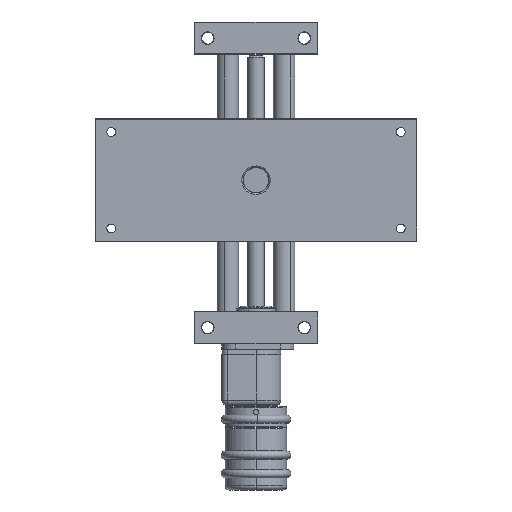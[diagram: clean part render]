
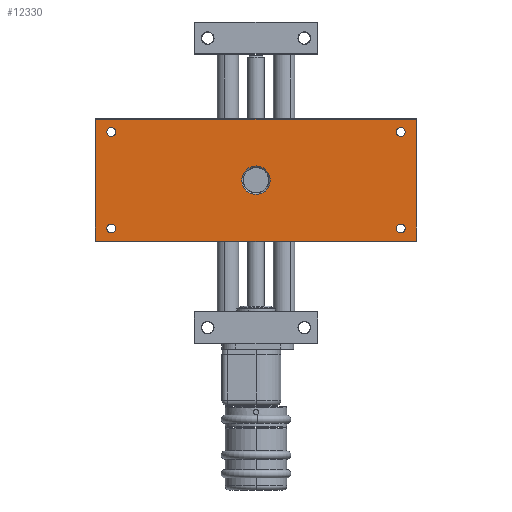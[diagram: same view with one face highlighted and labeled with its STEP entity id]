
A CAD part, front view. The second image highlights one B-rep face of the part: STEP entity #12330.
In plain terms, the highlighted planar face has unit normal (0, -1, 0).
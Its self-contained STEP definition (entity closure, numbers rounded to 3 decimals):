
#97 = VERTEX_POINT ( 'NONE', #8953 ) ;
#182 = FACE_BOUND ( 'NONE', #8036, .T. ) ;
#212 = CIRCLE ( 'NONE', #5906, 1.65 ) ;
#395 = CARTESIAN_POINT ( 'NONE',  ( 54., -7., -19.65 ) ) ;
#468 = VERTEX_POINT ( 'NONE', #3600 ) ;
#666 = CIRCLE ( 'NONE', #9954, 1.65 ) ;
#668 = CARTESIAN_POINT ( 'NONE',  ( -54., -7., 19.65 ) ) ;
#783 = AXIS2_PLACEMENT_3D ( 'NONE', #5947, #5916, #5890 ) ;
#1185 = EDGE_CURVE ( 'NONE', #1706, #3556, #8338, .T. ) ;
#1206 = DIRECTION ( 'NONE',  ( 1., 0., 0. ) ) ;
#1440 = DIRECTION ( 'NONE',  ( 0., -1., 0. ) ) ;
#1706 = VERTEX_POINT ( 'NONE', #11156 ) ;
#2142 = AXIS2_PLACEMENT_3D ( 'NONE', #2323, #2298, #2260 ) ;
#2260 = DIRECTION ( 'NONE',  ( 0., 0., 1. ) ) ;
#2298 = DIRECTION ( 'NONE',  ( 0., 1., 0. ) ) ;
#2323 = CARTESIAN_POINT ( 'NONE',  ( 0., -7., 0. ) ) ;
#2417 = DIRECTION ( 'NONE',  ( -1., 0., 0. ) ) ;
#2648 = VERTEX_POINT ( 'NONE', #395 ) ;
#2690 = LINE ( 'NONE', #5216, #6253 ) ;
#2712 = EDGE_LOOP ( 'NONE', ( #4130, #3086 ) ) ;
#2776 = ORIENTED_EDGE ( 'NONE', *, *, #13165, .T. ) ;
#2799 = DIRECTION ( 'NONE',  ( 0., 0., 1. ) ) ;
#2830 = DIRECTION ( 'NONE',  ( 0., -1., 0. ) ) ;
#2986 = CARTESIAN_POINT ( 'NONE',  ( -60., -7., 23. ) ) ;
#3086 = ORIENTED_EDGE ( 'NONE', *, *, #6129, .F. ) ;
#3158 = LINE ( 'NONE', #3850, #9868 ) ;
#3195 = ORIENTED_EDGE ( 'NONE', *, *, #15791, .F. ) ;
#3263 = PLANE ( 'NONE',  #6344 ) ;
#3556 = VERTEX_POINT ( 'NONE', #8647 ) ;
#3600 = CARTESIAN_POINT ( 'NONE',  ( -59.7, -7., -22.7 ) ) ;
#3743 = CARTESIAN_POINT ( 'NONE',  ( -60., -7., 22.7 ) ) ;
#3780 = CARTESIAN_POINT ( 'NONE',  ( -54., -7., -18. ) ) ;
#3809 = DIRECTION ( 'NONE',  ( 0., 0., 1. ) ) ;
#3827 = DIRECTION ( 'NONE',  ( 0., -1., 0. ) ) ;
#3831 = CARTESIAN_POINT ( 'NONE',  ( 54., -7., -18. ) ) ;
#3850 = CARTESIAN_POINT ( 'NONE',  ( -59.7, -7., -23. ) ) ;
#3867 = CIRCLE ( 'NONE', #16122, 1.65 ) ;
#3906 = CARTESIAN_POINT ( 'NONE',  ( -54., -7., -18. ) ) ;
#3924 = CARTESIAN_POINT ( 'NONE',  ( 54., -7., 19.65 ) ) ;
#4058 = VERTEX_POINT ( 'NONE', #10426 ) ;
#4130 = ORIENTED_EDGE ( 'NONE', *, *, #5795, .F. ) ;
#4307 = VECTOR ( 'NONE', #2417, 1000. ) ;
#4384 = VERTEX_POINT ( 'NONE', #668 ) ;
#4478 = ORIENTED_EDGE ( 'NONE', *, *, #9339, .F. ) ;
#4515 = DIRECTION ( 'NONE',  ( 0., 0., 1. ) ) ;
#4542 = DIRECTION ( 'NONE',  ( 0., -1., 0. ) ) ;
#4562 = CARTESIAN_POINT ( 'NONE',  ( 54., -7., -18. ) ) ;
#4706 = CARTESIAN_POINT ( 'NONE',  ( 0., -7., 5.3 ) ) ;
#4886 = ORIENTED_EDGE ( 'NONE', *, *, #6838, .F. ) ;
#5097 = DIRECTION ( 'NONE',  ( 0., 0., 1. ) ) ;
#5181 = DIRECTION ( 'NONE',  ( 0., 0., -1. ) ) ;
#5216 = CARTESIAN_POINT ( 'NONE',  ( 60., -7., -22.7 ) ) ;
#5239 = EDGE_LOOP ( 'NONE', ( #4886, #4478 ) ) ;
#5241 = DIRECTION ( 'NONE',  ( 0., 0., 1. ) ) ;
#5359 = CIRCLE ( 'NONE', #16535, 1.65 ) ;
#5435 = ORIENTED_EDGE ( 'NONE', *, *, #16121, .T. ) ;
#5442 = VERTEX_POINT ( 'NONE', #7554 ) ;
#5661 = AXIS2_PLACEMENT_3D ( 'NONE', #5977, #5920, #5858 ) ;
#5795 = EDGE_CURVE ( 'NONE', #4384, #5442, #666, .T. ) ;
#5858 = DIRECTION ( 'NONE',  ( 0., 0., 1. ) ) ;
#5890 = DIRECTION ( 'NONE',  ( 0., 0., 1. ) ) ;
#5906 = AXIS2_PLACEMENT_3D ( 'NONE', #3831, #3827, #3809 ) ;
#5916 = DIRECTION ( 'NONE',  ( 0., 1., 0. ) ) ;
#5920 = DIRECTION ( 'NONE',  ( 0., -1., 0. ) ) ;
#5947 = CARTESIAN_POINT ( 'NONE',  ( 0., -7., 0. ) ) ;
#5977 = CARTESIAN_POINT ( 'NONE',  ( 54., -7., 18. ) ) ;
#6129 = EDGE_CURVE ( 'NONE', #5442, #4384, #13731, .T. ) ;
#6253 = VECTOR ( 'NONE', #1206, 1000. ) ;
#6283 = CIRCLE ( 'NONE', #10458, 1.65 ) ;
#6312 = EDGE_LOOP ( 'NONE', ( #15497, #12726 ) ) ;
#6344 = AXIS2_PLACEMENT_3D ( 'NONE', #2986, #2830, #2799 ) ;
#6470 = CIRCLE ( 'NONE', #5661, 1.65 ) ;
#6519 = ORIENTED_EDGE ( 'NONE', *, *, #8331, .T. ) ;
#6838 = EDGE_CURVE ( 'NONE', #7875, #2648, #212, .T. ) ;
#6932 = FACE_BOUND ( 'NONE', #10495, .T. ) ;
#7105 = AXIS2_PLACEMENT_3D ( 'NONE', #4562, #4542, #4515 ) ;
#7348 = FACE_OUTER_BOUND ( 'NONE', #9454, .T. ) ;
#7412 = CARTESIAN_POINT ( 'NONE',  ( 54., -7., 16.35 ) ) ;
#7554 = CARTESIAN_POINT ( 'NONE',  ( -54., -7., 16.35 ) ) ;
#7823 = ORIENTED_EDGE ( 'NONE', *, *, #9274, .T. ) ;
#7875 = VERTEX_POINT ( 'NONE', #9485 ) ;
#7901 = ORIENTED_EDGE ( 'NONE', *, *, #12868, .F. ) ;
#8036 = EDGE_LOOP ( 'NONE', ( #6519, #7823 ) ) ;
#8331 = EDGE_CURVE ( 'NONE', #9348, #97, #12381, .T. ) ;
#8338 = LINE ( 'NONE', #14782, #11767 ) ;
#8344 = LINE ( 'NONE', #3743, #4307 ) ;
#8619 = FACE_BOUND ( 'NONE', #6312, .T. ) ;
#8647 = CARTESIAN_POINT ( 'NONE',  ( 59.7, -7., 22.7 ) ) ;
#8953 = CARTESIAN_POINT ( 'NONE',  ( 0., -7., -5.3 ) ) ;
#9183 = VERTEX_POINT ( 'NONE', #7412 ) ;
#9274 = EDGE_CURVE ( 'NONE', #97, #9348, #16817, .T. ) ;
#9339 = EDGE_CURVE ( 'NONE', #2648, #7875, #11778, .T. ) ;
#9348 = VERTEX_POINT ( 'NONE', #4706 ) ;
#9454 = EDGE_LOOP ( 'NONE', ( #16270, #5435, #9706, #2776 ) ) ;
#9478 = CARTESIAN_POINT ( 'NONE',  ( 54., -7., 18. ) ) ;
#9485 = CARTESIAN_POINT ( 'NONE',  ( 54., -7., -16.35 ) ) ;
#9706 = ORIENTED_EDGE ( 'NONE', *, *, #14223, .T. ) ;
#9868 = VECTOR ( 'NONE', #5181, 1000. ) ;
#9954 = AXIS2_PLACEMENT_3D ( 'NONE', #14842, #14825, #14810 ) ;
#10426 = CARTESIAN_POINT ( 'NONE',  ( -59.7, -7., 22.7 ) ) ;
#10454 = FACE_BOUND ( 'NONE', #5239, .T. ) ;
#10458 = AXIS2_PLACEMENT_3D ( 'NONE', #3906, #13151, #5241 ) ;
#10495 = EDGE_LOOP ( 'NONE', ( #3195, #7901 ) ) ;
#10771 = DIRECTION ( 'NONE',  ( 0., 0., 1. ) ) ;
#11156 = CARTESIAN_POINT ( 'NONE',  ( 59.7, -7., -22.7 ) ) ;
#11349 = DIRECTION ( 'NONE',  ( 0., 0., 1. ) ) ;
#11364 = DIRECTION ( 'NONE',  ( 0., -1., 0. ) ) ;
#11395 = CARTESIAN_POINT ( 'NONE',  ( -54., -7., 18. ) ) ;
#11767 = VECTOR ( 'NONE', #14818, 1000. ) ;
#11778 = CIRCLE ( 'NONE', #7105, 1.65 ) ;
#12330 = ADVANCED_FACE ( 'NONE', ( #182, #7348, #8619, #13881, #10454, #6932 ), #3263, .T. ) ;
#12381 = CIRCLE ( 'NONE', #2142, 5.3 ) ;
#12726 = ORIENTED_EDGE ( 'NONE', *, *, #14245, .F. ) ;
#12868 = EDGE_CURVE ( 'NONE', #9183, #15476, #6470, .T. ) ;
#13026 = DIRECTION ( 'NONE',  ( 0., -1., 0. ) ) ;
#13043 = AXIS2_PLACEMENT_3D ( 'NONE', #11395, #11364, #11349 ) ;
#13151 = DIRECTION ( 'NONE',  ( 0., -1., 0. ) ) ;
#13165 = EDGE_CURVE ( 'NONE', #468, #1706, #2690, .T. ) ;
#13731 = CIRCLE ( 'NONE', #13043, 1.65 ) ;
#13881 = FACE_BOUND ( 'NONE', #2712, .T. ) ;
#14223 = EDGE_CURVE ( 'NONE', #4058, #468, #3158, .T. ) ;
#14245 = EDGE_CURVE ( 'NONE', #15810, #15664, #6283, .T. ) ;
#14782 = CARTESIAN_POINT ( 'NONE',  ( 59.7, -7., 23. ) ) ;
#14810 = DIRECTION ( 'NONE',  ( 0., 0., 1. ) ) ;
#14818 = DIRECTION ( 'NONE',  ( 0., 0., 1. ) ) ;
#14825 = DIRECTION ( 'NONE',  ( 0., -1., 0. ) ) ;
#14842 = CARTESIAN_POINT ( 'NONE',  ( -54., -7., 18. ) ) ;
#15476 = VERTEX_POINT ( 'NONE', #3924 ) ;
#15497 = ORIENTED_EDGE ( 'NONE', *, *, #16629, .F. ) ;
#15664 = VERTEX_POINT ( 'NONE', #16301 ) ;
#15791 = EDGE_CURVE ( 'NONE', #15476, #9183, #5359, .T. ) ;
#15810 = VERTEX_POINT ( 'NONE', #15912 ) ;
#15912 = CARTESIAN_POINT ( 'NONE',  ( -54., -7., -19.65 ) ) ;
#16121 = EDGE_CURVE ( 'NONE', #3556, #4058, #8344, .T. ) ;
#16122 = AXIS2_PLACEMENT_3D ( 'NONE', #3780, #13026, #5097 ) ;
#16270 = ORIENTED_EDGE ( 'NONE', *, *, #1185, .T. ) ;
#16301 = CARTESIAN_POINT ( 'NONE',  ( -54., -7., -16.35 ) ) ;
#16535 = AXIS2_PLACEMENT_3D ( 'NONE', #9478, #1440, #10771 ) ;
#16629 = EDGE_CURVE ( 'NONE', #15664, #15810, #3867, .T. ) ;
#16817 = CIRCLE ( 'NONE', #783, 5.3 ) ;
